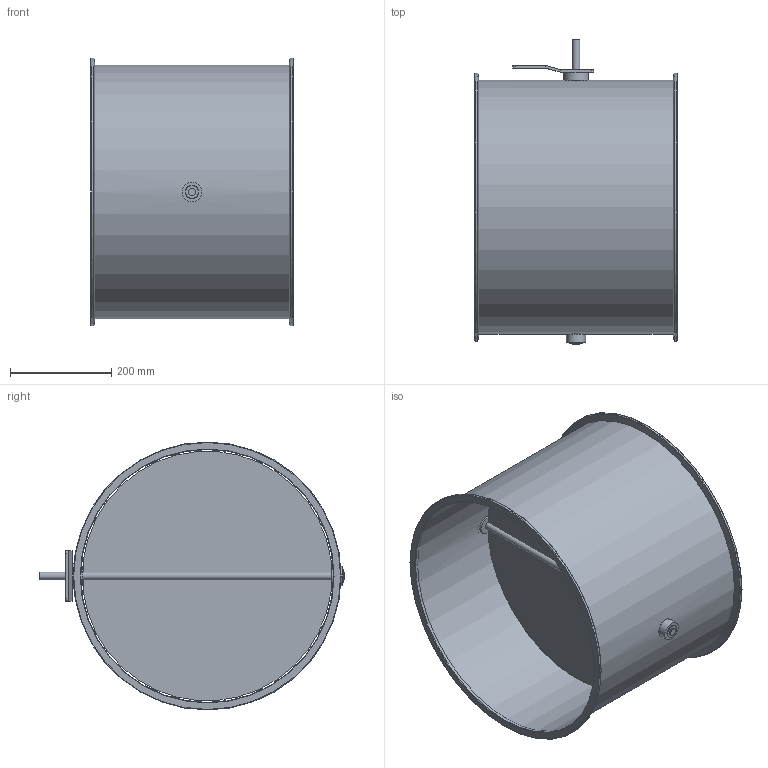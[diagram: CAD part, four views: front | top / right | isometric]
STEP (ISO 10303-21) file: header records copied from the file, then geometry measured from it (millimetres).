
FILE_DESCRIPTION(/* description */ (''),/* implementation_level */ '2;1');
FILE_NAME(/* name */ 'EA110-80B__500_L400_Belimo_Typ_SM.stp',/* time_stamp */ '2017-12-07T11:05:56+01:00',/* author */ (''),/* organization */ (''),/* preprocessor_version */ 'ST-DEVELOPER v11',/* originating_system */ 'SIEMENS UGS NX 6.0',/* authorisation */ '');
FILE_SCHEMA (('CONFIG_CONTROL_DESIGN'));
Length unit declared in the file: millimetre
Products named in the file (1): gars5544kxc6
Bounding box: 400 x 604 x 530 mm (x, y, z)
Volume: 1409503.2 mm3; surface area: 1811796 mm2
Topology: 8 solids, 8 shells, 78 faces, 164 edges, 104 vertices
Faces by surface type: plane 36, cylinder 34, torus 6, cone 2
Full cylindrical faces by diameter (mm): 6.1 x6, 15 x3, 25 x3, 25.85 x2, 26 x2, 38 x3, 49 x1, 500 x1, 502 x1, 530 x2
Entity records: 2028 total; most frequent: CARTESIAN_POINT 363, DIRECTION 346, ORIENTED_EDGE 244, AXIS2_PLACEMENT_3D 149, EDGE_LOOP 140, EDGE_CURVE 122, FACE_BOUND 110, VERTEX_POINT 94
